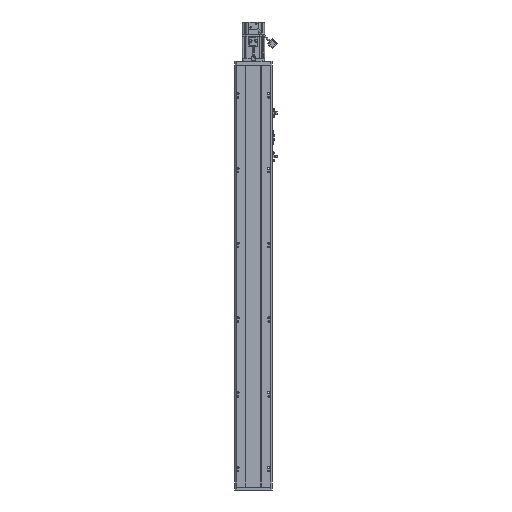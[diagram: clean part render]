
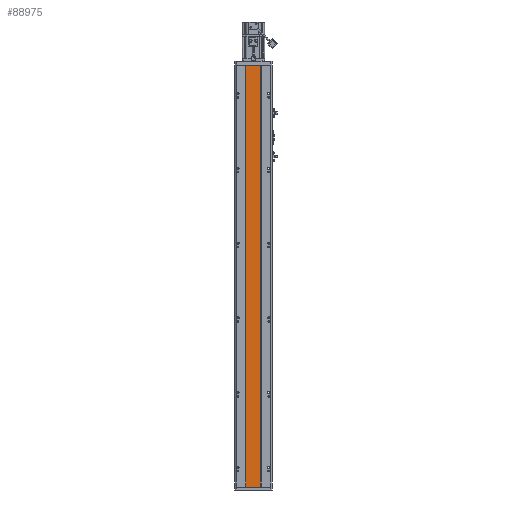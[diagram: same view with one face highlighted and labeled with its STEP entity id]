
A CAD part, front view. The second image highlights one B-rep face of the part: STEP entity #88975.
In plain terms, the highlighted planar face has unit normal (0, -1, 0).
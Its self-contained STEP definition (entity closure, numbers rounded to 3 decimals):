
#630 = VERTEX_POINT ( 'NONE', #19244 ) ;
#3883 = EDGE_CURVE ( 'NONE', #95810, #49845, #80632, .T. ) ;
#6762 = DIRECTION ( 'NONE',  ( 0., 1., 0. ) ) ;
#13383 = LINE ( 'NONE', #77110, #15941 ) ;
#14955 = VERTEX_POINT ( 'NONE', #36936 ) ;
#15941 = VECTOR ( 'NONE', #29684, 1000. ) ;
#19244 = CARTESIAN_POINT ( 'NONE',  ( 20., 0., 0. ) ) ;
#20885 = CARTESIAN_POINT ( 'NONE',  ( 20., 0., -1128.5 ) ) ;
#22276 = CARTESIAN_POINT ( 'NONE',  ( -20., 0., -1128.5 ) ) ;
#28513 = ORIENTED_EDGE ( 'NONE', *, *, #85922, .T. ) ;
#29684 = DIRECTION ( 'NONE',  ( -1., 0., 0. ) ) ;
#29888 = FACE_OUTER_BOUND ( 'NONE', #87990, .T. ) ;
#30996 = DIRECTION ( 'NONE',  ( -1., 0., 0. ) ) ;
#36181 = ORIENTED_EDGE ( 'NONE', *, *, #79281, .F. ) ;
#36936 = CARTESIAN_POINT ( 'NONE',  ( -20., 0., 0. ) ) ;
#38664 = ORIENTED_EDGE ( 'NONE', *, *, #3883, .F. ) ;
#39860 = ORIENTED_EDGE ( 'NONE', *, *, #64664, .T. ) ;
#49845 = VERTEX_POINT ( 'NONE', #72457 ) ;
#51277 = VECTOR ( 'NONE', #78081, 1000. ) ;
#53024 = VECTOR ( 'NONE', #81405, 1000. ) ;
#55560 = LINE ( 'NONE', #97316, #53024 ) ;
#58458 = AXIS2_PLACEMENT_3D ( 'NONE', #70300, #6762, #30996 ) ;
#62380 = PLANE ( 'NONE',  #58458 ) ;
#64664 = EDGE_CURVE ( 'NONE', #95810, #630, #55560, .T. ) ;
#70300 = CARTESIAN_POINT ( 'NONE',  ( 20., 0., -1128.5 ) ) ;
#72457 = CARTESIAN_POINT ( 'NONE',  ( -20., 0., -1128.5 ) ) ;
#74886 = LINE ( 'NONE', #22276, #51277 ) ;
#77110 = CARTESIAN_POINT ( 'NONE',  ( 20., 0., 0. ) ) ;
#78081 = DIRECTION ( 'NONE',  ( 0., 0., 1. ) ) ;
#79281 = EDGE_CURVE ( 'NONE', #49845, #14955, #74886, .T. ) ;
#80399 = VECTOR ( 'NONE', #94388, 1000. ) ;
#80632 = LINE ( 'NONE', #94007, #80399 ) ;
#81405 = DIRECTION ( 'NONE',  ( 0., 0., 1. ) ) ;
#85922 = EDGE_CURVE ( 'NONE', #630, #14955, #13383, .T. ) ;
#87990 = EDGE_LOOP ( 'NONE', ( #28513, #36181, #38664, #39860 ) ) ;
#88975 = ADVANCED_FACE ( 'NONE', ( #29888 ), #62380, .F. ) ;
#94007 = CARTESIAN_POINT ( 'NONE',  ( 20., 0., -1128.5 ) ) ;
#94388 = DIRECTION ( 'NONE',  ( -1., 0., 0. ) ) ;
#95810 = VERTEX_POINT ( 'NONE', #20885 ) ;
#97316 = CARTESIAN_POINT ( 'NONE',  ( 20., 0., -1128.5 ) ) ;
